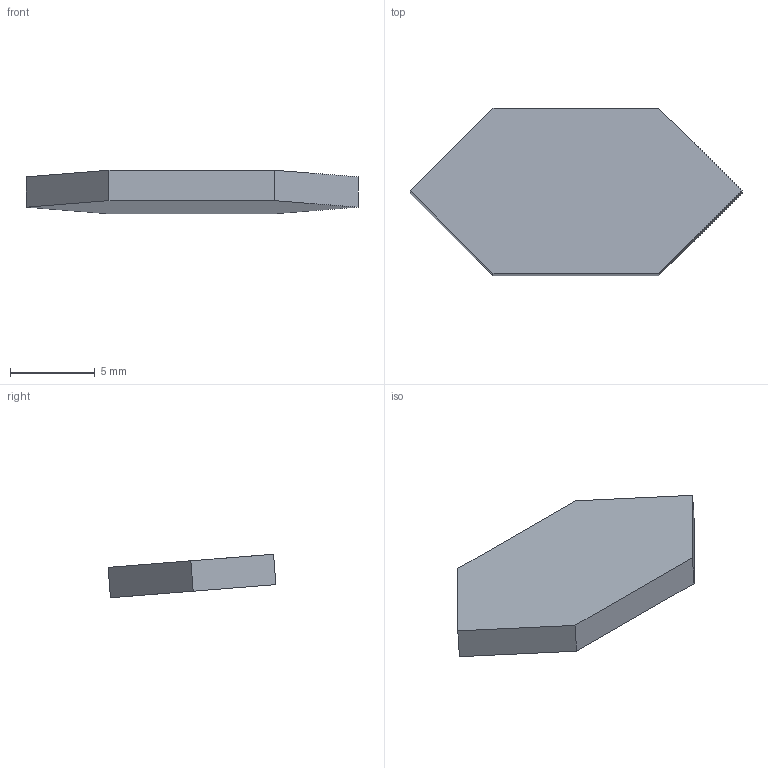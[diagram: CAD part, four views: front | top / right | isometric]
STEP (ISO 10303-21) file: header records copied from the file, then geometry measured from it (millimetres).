
FILE_DESCRIPTION(/* description */ (''),/* implementation_level */ '2;1');
FILE_NAME(/* name */ 'Snow_cap_alignment.step',/* time_stamp */ '2025-12-14T00:30:31+02:00',/* author */ (''),/* organization */ (''),/* preprocessor_version */ 'ST-DEVELOPER v20.1',/* originating_system */ 'Autodesk Translation Framework v14.21.0.0',/* authorisation */ '');
FILE_SCHEMA (('AUTOMOTIVE_DESIGN { 1 0 10303 214 3 1 1 }'));
Length unit declared in the file: millimetre
Products named in the file (1): Snow_cap_regular
Bounding box: 19.6 x 9.91 x 2.57 mm (x, y, z)
Volume: 259.3 mm3; surface area: 373.3 mm2
Topology: 1 solids, 1 shells, 8 faces, 18 edges, 12 vertices
Faces by surface type: plane 8
Entity records: 262 total; most frequent: CARTESIAN_POINT 39, ORIENTED_EDGE 36, DIRECTION 36, LINE 18, VECTOR 18, EDGE_CURVE 18, VERTEX_POINT 12, AXIS2_PLACEMENT_3D 9
